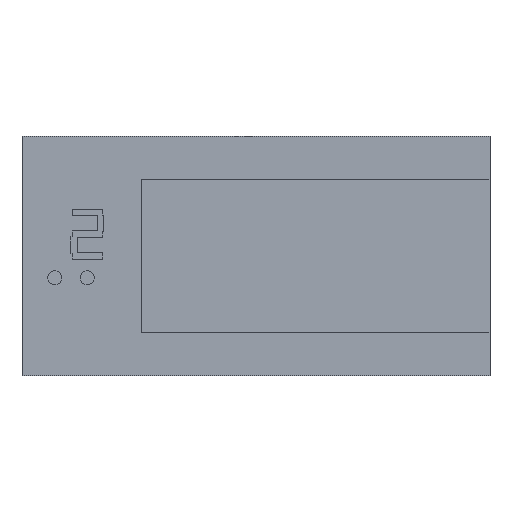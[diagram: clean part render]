
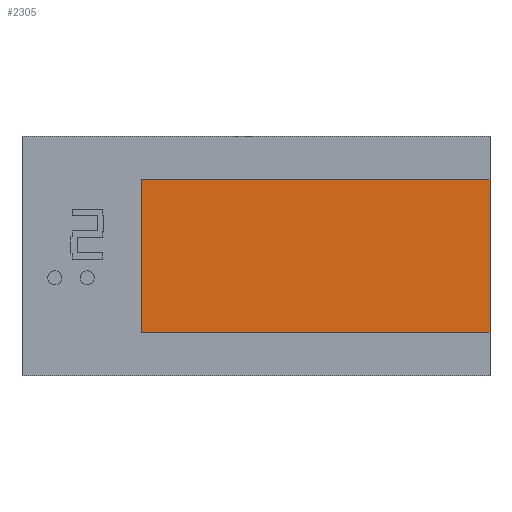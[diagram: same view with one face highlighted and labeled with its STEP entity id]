
A CAD part, top view. The second image highlights one B-rep face of the part: STEP entity #2305.
In plain terms, the highlighted planar face has unit normal (0, 0, 1).
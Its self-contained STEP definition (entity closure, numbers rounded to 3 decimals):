
#44 = PLANE('',#45);
#45 = AXIS2_PLACEMENT_3D('',#46,#47,#48);
#46 = CARTESIAN_POINT('',(-16.,-11.,0.));
#47 = DIRECTION('',(1.,0.,-0.));
#48 = DIRECTION('',(0.,0.,1.));
#71 = PLANE('',#72);
#72 = AXIS2_PLACEMENT_3D('',#73,#74,#75);
#73 = CARTESIAN_POINT('',(-16.,4.,3.));
#74 = DIRECTION('',(0.,-0.707,0.707));
#75 = DIRECTION('',(0.,0.707,0.707));
#99 = PLANE('',#100);
#100 = AXIS2_PLACEMENT_3D('',#101,#102,#103);
#101 = CARTESIAN_POINT('',(16.,-11.,0.));
#102 = DIRECTION('',(1.,0.,-0.));
#103 = DIRECTION('',(0.,0.,1.));
#232 = PLANE('',#233);
#233 = AXIS2_PLACEMENT_3D('',#234,#235,#236);
#234 = CARTESIAN_POINT('',(-16.,-7.,6.));
#235 = DIRECTION('',(-0.,0.707,0.707));
#236 = DIRECTION('',(0.,0.707,-0.707));
#832 = VERTEX_POINT('',#833);
#833 = CARTESIAN_POINT('',(-16.,-7.,6.));
#856 = VERTEX_POINT('',#857);
#857 = CARTESIAN_POINT('',(-16.,7.,6.));
#878 = EDGE_CURVE('',#856,#832,#879,.T.);
#879 = SURFACE_CURVE('',#880,(#884,#891),.PCURVE_S1.);
#880 = LINE('',#881,#882);
#881 = CARTESIAN_POINT('',(-16.,7.,6.));
#882 = VECTOR('',#883,1.);
#883 = DIRECTION('',(0.,-1.,0.));
#884 = PCURVE('',#44,#885);
#885 = DEFINITIONAL_REPRESENTATION('',(#886),#890);
#886 = LINE('',#887,#888);
#887 = CARTESIAN_POINT('',(6.,-18.));
#888 = VECTOR('',#889,1.);
#889 = DIRECTION('',(0.,1.));
#890 = ( GEOMETRIC_REPRESENTATION_CONTEXT(2) 
PARAMETRIC_REPRESENTATION_CONTEXT() REPRESENTATION_CONTEXT('2D SPACE',''
  ) );
#891 = PCURVE('',#892,#897);
#892 = PLANE('',#893);
#893 = AXIS2_PLACEMENT_3D('',#894,#895,#896);
#894 = CARTESIAN_POINT('',(-16.,7.,6.));
#895 = DIRECTION('',(0.,0.,-1.));
#896 = DIRECTION('',(0.,-1.,0.));
#897 = DEFINITIONAL_REPRESENTATION('',(#898),#902);
#898 = LINE('',#899,#900);
#899 = CARTESIAN_POINT('',(0.,-0.));
#900 = VECTOR('',#901,1.);
#901 = DIRECTION('',(1.,0.));
#902 = ( GEOMETRIC_REPRESENTATION_CONTEXT(2) 
PARAMETRIC_REPRESENTATION_CONTEXT() REPRESENTATION_CONTEXT('2D SPACE',''
  ) );
#909 = VERTEX_POINT('',#910);
#910 = CARTESIAN_POINT('',(16.,7.,6.));
#931 = EDGE_CURVE('',#856,#909,#932,.T.);
#932 = SURFACE_CURVE('',#933,(#937,#944),.PCURVE_S1.);
#933 = LINE('',#934,#935);
#934 = CARTESIAN_POINT('',(-16.,7.,6.));
#935 = VECTOR('',#936,1.);
#936 = DIRECTION('',(1.,0.,0.));
#937 = PCURVE('',#71,#938);
#938 = DEFINITIONAL_REPRESENTATION('',(#939),#943);
#939 = LINE('',#940,#941);
#940 = CARTESIAN_POINT('',(4.243,0.));
#941 = VECTOR('',#942,1.);
#942 = DIRECTION('',(0.,-1.));
#943 = ( GEOMETRIC_REPRESENTATION_CONTEXT(2) 
PARAMETRIC_REPRESENTATION_CONTEXT() REPRESENTATION_CONTEXT('2D SPACE',''
  ) );
#944 = PCURVE('',#892,#945);
#945 = DEFINITIONAL_REPRESENTATION('',(#946),#950);
#946 = LINE('',#947,#948);
#947 = CARTESIAN_POINT('',(0.,-0.));
#948 = VECTOR('',#949,1.);
#949 = DIRECTION('',(0.,-1.));
#950 = ( GEOMETRIC_REPRESENTATION_CONTEXT(2) 
PARAMETRIC_REPRESENTATION_CONTEXT() REPRESENTATION_CONTEXT('2D SPACE',''
  ) );
#956 = EDGE_CURVE('',#832,#957,#959,.T.);
#957 = VERTEX_POINT('',#958);
#958 = CARTESIAN_POINT('',(16.,-7.,6.));
#959 = SURFACE_CURVE('',#960,(#964,#971),.PCURVE_S1.);
#960 = LINE('',#961,#962);
#961 = CARTESIAN_POINT('',(-16.,-7.,6.));
#962 = VECTOR('',#963,1.);
#963 = DIRECTION('',(1.,0.,0.));
#964 = PCURVE('',#232,#965);
#965 = DEFINITIONAL_REPRESENTATION('',(#966),#970);
#966 = LINE('',#967,#968);
#967 = CARTESIAN_POINT('',(0.,0.));
#968 = VECTOR('',#969,1.);
#969 = DIRECTION('',(0.,-1.));
#970 = ( GEOMETRIC_REPRESENTATION_CONTEXT(2) 
PARAMETRIC_REPRESENTATION_CONTEXT() REPRESENTATION_CONTEXT('2D SPACE',''
  ) );
#971 = PCURVE('',#892,#972);
#972 = DEFINITIONAL_REPRESENTATION('',(#973),#977);
#973 = LINE('',#974,#975);
#974 = CARTESIAN_POINT('',(14.,0.));
#975 = VECTOR('',#976,1.);
#976 = DIRECTION('',(0.,-1.));
#977 = ( GEOMETRIC_REPRESENTATION_CONTEXT(2) 
PARAMETRIC_REPRESENTATION_CONTEXT() REPRESENTATION_CONTEXT('2D SPACE',''
  ) );
#1079 = EDGE_CURVE('',#909,#957,#1080,.T.);
#1080 = SURFACE_CURVE('',#1081,(#1085,#1092),.PCURVE_S1.);
#1081 = LINE('',#1082,#1083);
#1082 = CARTESIAN_POINT('',(16.,7.,6.));
#1083 = VECTOR('',#1084,1.);
#1084 = DIRECTION('',(0.,-1.,0.));
#1085 = PCURVE('',#99,#1086);
#1086 = DEFINITIONAL_REPRESENTATION('',(#1087),#1091);
#1087 = LINE('',#1088,#1089);
#1088 = CARTESIAN_POINT('',(6.,-18.));
#1089 = VECTOR('',#1090,1.);
#1090 = DIRECTION('',(0.,1.));
#1091 = ( GEOMETRIC_REPRESENTATION_CONTEXT(2) 
PARAMETRIC_REPRESENTATION_CONTEXT() REPRESENTATION_CONTEXT('2D SPACE',''
  ) );
#1092 = PCURVE('',#892,#1093);
#1093 = DEFINITIONAL_REPRESENTATION('',(#1094),#1098);
#1094 = LINE('',#1095,#1096);
#1095 = CARTESIAN_POINT('',(0.,-32.));
#1096 = VECTOR('',#1097,1.);
#1097 = DIRECTION('',(1.,0.));
#1098 = ( GEOMETRIC_REPRESENTATION_CONTEXT(2) 
PARAMETRIC_REPRESENTATION_CONTEXT() REPRESENTATION_CONTEXT('2D SPACE',''
  ) );
#2305 = ADVANCED_FACE('',(#2306),#892,.F.);
#2306 = FACE_BOUND('',#2307,.F.);
#2307 = EDGE_LOOP('',(#2308,#2309,#2310,#2311));
#2308 = ORIENTED_EDGE('',*,*,#931,.T.);
#2309 = ORIENTED_EDGE('',*,*,#1079,.T.);
#2310 = ORIENTED_EDGE('',*,*,#956,.F.);
#2311 = ORIENTED_EDGE('',*,*,#878,.F.);
